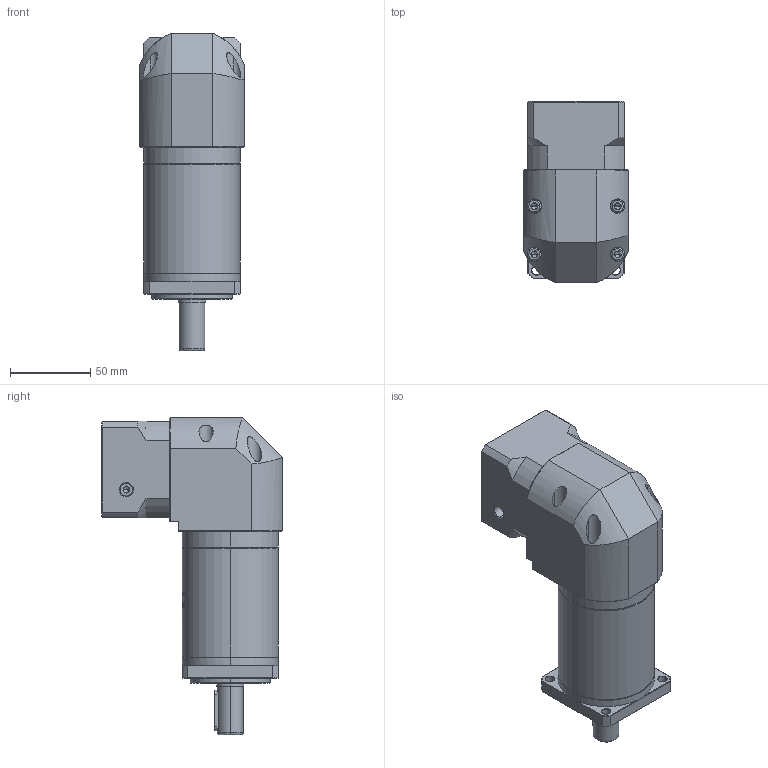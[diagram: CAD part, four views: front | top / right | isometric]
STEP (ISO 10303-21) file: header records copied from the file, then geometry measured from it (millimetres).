
FILE_DESCRIPTION (( 'STEP AP214' ), '1' );
FILE_NAME ('ZFR060-D16-L3-P2-14-50-70-M5.step', '2023-08-17T03:36:09', ( '' ), ( '' ), 'SwSTEP 2.0', 'SolidWorks 2016', '' );
FILE_SCHEMA (( 'AUTOMOTIVE_DESIGN' ));
Length unit declared in the file: millimetre
Products named in the file (1): ZFR060-D16-L3-P2-14-50-70-M5
Bounding box: 65 x 112.7 x 197.5 mm (x, y, z)
Volume: 636821.7 mm3; surface area: 85306.3 mm2
Topology: 5 solids, 6 shells, 1922 faces, 5125 edges, 3300 vertices
Faces by surface type: plane 847, cylinder 407, bspline 366, cone 290, torus 12
Entity records: 106766 total; most frequent: CARTESIAN_POINT 42012, ORIENTED_EDGE 10206, DIRECTION 7580, EDGE_CURVE 5103, VERTEX_POINT 3300, LINE 2614, VECTOR 2614, AXIS2_PLACEMENT_3D 2483
